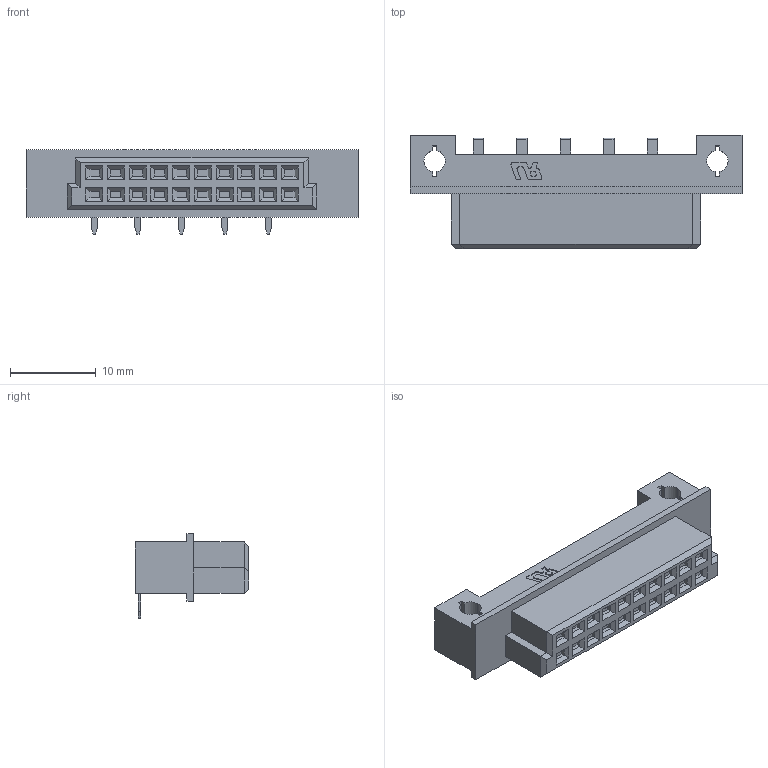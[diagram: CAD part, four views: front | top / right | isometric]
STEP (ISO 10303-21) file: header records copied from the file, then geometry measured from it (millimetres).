
FILE_DESCRIPTION (( 'STEP AP203' ), '1' );
FILE_NAME ('9001-C48051C00A.STEP', '2018-02-02T03:12:47', ( '' ), ( '' ), 'SwSTEP 2.0', 'SolidWorks 2011', '' );
FILE_SCHEMA (( 'CONFIG_CONTROL_DESIGN' ));
Length unit declared in the file: millimetre
Products named in the file (1): 9001-C48051C00A
Bounding box: 38.76 x 13.2 x 9.85 mm (x, y, z)
Volume: 2359.3 mm3; surface area: 2648.1 mm2
Topology: 26 solids, 26 shells, 956 faces, 2545 edges, 1664 vertices
Faces by surface type: plane 671, cylinder 285
Entity records: 29630 total; most frequent: CARTESIAN_POINT 6206, ORIENTED_EDGE 5090, DIRECTION 4549, EDGE_CURVE 2545, VECTOR 1815, LINE 1815, VERTEX_POINT 1664, AXIS2_PLACEMENT_3D 1367
